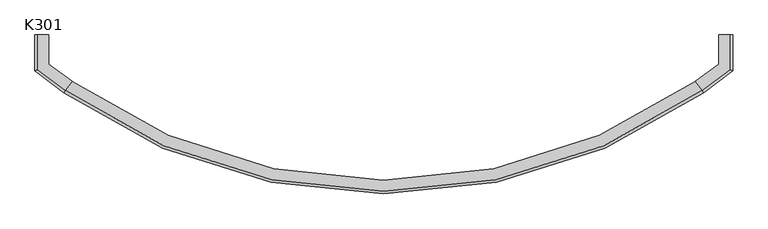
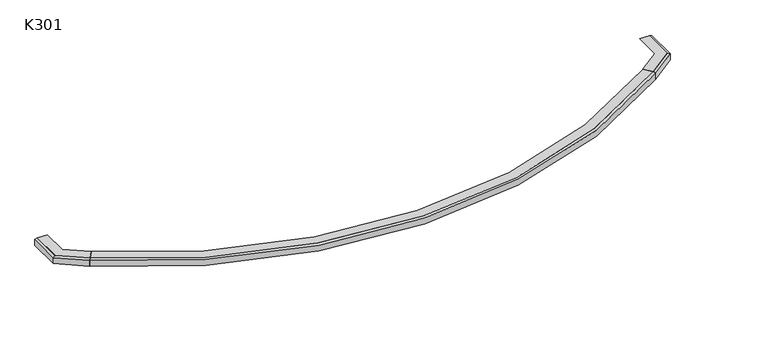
"""IFC4 building model written with IfcOpenShell, lengths in millimetres: proxy geometry, K301 Profil okapowy łukowy : K301."""

from ifc_helpers import new_model, si_unit, frame, origin, place, context, project, spatial, polyline, circle_curve, faceted_brep, source, transform, mapped, element, save
from ifc_brep_helpers import plane_surface, cylinder_surface, revolved_surface, advanced_brep


def k301_899016ea(model_context):
    return source(origin(), model_context, "Body", "SolidModel", [
        faceted_brep([(4812.0682799, -166.0790892, -6.0), (4800.0615487, -150.0841398, 0.0), (4752.034624, -86.1043422, 0.0), (4752.9252645, -87.2908225, -1.5004157), (4799.1610439, -148.8845186, -1.5004157), (4799.1610439, -148.8845186, -4.5), (4800.0615487, -150.0841398, -4.5), (4800.0615487, -150.0841398, -1.566046), (4811.1677751, -164.879468, -7.116046), (4811.1677751, -164.879468, -55.4735048), (4812.0682799, -166.0790892, -56.0), (5020.024571, 249.9979062, -6.0), (5020.024571, 249.9979062, -56.0), (5018.524571, 249.9980632, -55.4735048), (5018.524571, 249.9980632, -7.116046), (5000.0245711, 249.9999986, -1.566046), (5000.0245711, 249.9999986, -4.5), (4998.5245711, 250.0001556, -4.5), (4998.5245711, 250.0001556, -1.5004157), (4921.5081401, 250.008213, -1.5004157), (4920.0245716, 250.0083682, 0.0), (5000.0245711, 249.9999986, 0.0), (5019.9973706, -9.9955259, -56.0), (5019.9973706, -9.9955259, -6.0), (5018.497449, -9.2458614, -55.4735048), (5018.497449, -9.2458614, -7.116046), (4999.9984162, 0.0, -1.566046), (4999.9984162, 0.0, -4.5), (4998.4984946, 0.7496644, -4.5), (4998.4984946, 0.7496644, -1.5004157), (4921.4860897, 39.2406511, -1.5004157), (4920.0025987, 39.9821035, 0.0), (4999.9984162, 0.0, 0.0)], [[[0, 1, 2, 3, 4, 5, 6, 7, 8, 9, 10]], [[11, 12, 13, 14, 15, 16, 17, 18, 19, 20, 21]], [[10, 22, 23, 0]], [[9, 24, 22, 10]], [[8, 25, 24, 9]], [[7, 26, 25, 8]], [[6, 27, 26, 7]], [[5, 28, 17, 16, 27, 6]], [[4, 29, 28, 5]], [[3, 30, 19, 18, 29, 4]], [[2, 31, 30, 3]], [[1, 32, 21, 20, 31, 2]], [[0, 23, 32, 1]], [[22, 12, 11, 23]], [[24, 13, 12, 22]], [[25, 14, 13, 24]], [[26, 15, 14, 25]], [[27, 16, 15, 26]], [[29, 18, 17, 28]], [[31, 20, 19, 30]], [[23, 11, 21, 32]]]),
        faceted_brep([(187.9301977, -166.0791353, -6.0), (187.9301977, -166.0791353, -56.0), (188.8307025, -164.8795141, -55.4735048), (188.8307025, -164.8795141, -7.116046), (199.9369289, -150.0841859, -1.566046), (199.9369289, -150.0841859, -4.5), (200.8374337, -148.8845647, -4.5), (200.8374337, -148.8845647, -1.5004157), (247.0732132, -87.2908686, -1.5004157), (247.9638536, -86.1043883, 0.0), (199.9369289, -150.0841859, 0.0), (-20.0260934, 249.9978601, -6.0), (-0.0260935, 249.9999525, 0.0), (79.9739061, 250.0083221, 0.0), (78.4903375, 250.0081669, -1.5004157), (1.4739065, 250.0001095, -1.5004157), (1.4739065, 250.0001095, -4.5), (-0.0260935, 249.9999525, -4.5), (-0.0260935, 249.9999525, -1.566046), (-18.5260934, 249.9980171, -7.116046), (-18.5260934, 249.9980171, -55.4735048), (-20.0260934, 249.9978601, -56.0), (-19.998893, -9.995572, -6.0), (-19.998893, -9.995572, -56.0), (-18.4989714, -9.2459076, -55.4735048), (-18.4989714, -9.2459076, -7.116046), (6.14e-05, -4.61e-05, -1.566046), (6.14e-05, -4.61e-05, -4.5), (1.499983, 0.7496183, -4.5), (1.499983, 0.7496183, -1.5004157), (78.5123879, 39.240605, -1.5004157), (79.9958789, 39.9820574, 0.0), (6.14e-05, -4.61e-05, 0.0)], [[[0, 1, 2, 3, 4, 5, 6, 7, 8, 9, 10]], [[11, 12, 13, 14, 15, 16, 17, 18, 19, 20, 21]], [[1, 0, 22, 23]], [[2, 1, 23, 24]], [[3, 2, 24, 25]], [[4, 3, 25, 26]], [[5, 4, 26, 27]], [[6, 5, 27, 17, 16, 28]], [[7, 6, 28, 29]], [[8, 7, 29, 15, 14, 30]], [[9, 8, 30, 31]], [[10, 9, 31, 13, 12, 32]], [[0, 10, 32, 22]], [[23, 22, 11, 21]], [[24, 23, 21, 20]], [[25, 24, 20, 19]], [[26, 25, 19, 18]], [[27, 26, 18, 17]], [[29, 28, 16, 15]], [[31, 30, 14, 13]], [[22, 32, 12, 11]]]),
        advanced_brep(
        [(188.5440388, -166.508576, -6.0), (200.0438157, -150.1453511, 0.0), (246.0429236, -84.6924514, 0.0), (245.1898882, -85.9062497, -1.5004157), (200.906299, -148.9181092, -1.5004157), (200.906299, -148.9181092, -4.5), (200.0438157, -150.1453511, -4.5), (200.0438157, -150.1453511, -1.566046), (189.406522, -165.2813341, -7.116046), (189.406522, -165.2813341, -55.4735048), (188.5440388, -166.508576, -56.0), (4811.4543774, -166.508576, -6.0), (4811.4543774, -166.508576, -56.0), (4810.5918942, -165.2813341, -55.4735048), (4810.5918942, -165.2813341, -7.116046), (4799.9546005, -150.1453511, -1.566046), (4799.9546005, -150.1453511, -4.5), (4799.0921172, -148.9181092, -4.5), (4799.0921172, -148.9181092, -1.5004157), (4754.808528, -85.9062497, -1.5004157), (4753.9554926, -84.6924514, 0.0), (4799.9546005, -150.1453511, 0.0)],
        [
            (0, 1),
            (1, 2),
            (2, 3),
            (3, 4),
            (4, 5),
            (5, 6),
            (6, 7),
            (7, 8),
            (8, 9),
            (9, 10),
            (10, 0),
            (11, 12),
            (12, 13),
            (13, 14),
            (14, 15),
            (15, 16),
            (16, 17),
            (17, 18),
            (18, 19),
            (19, 20),
            (20, 21),
            (21, 11),
            (21, 1, circle_curve(frame((2499.9992081, 3122.4996332, 0.0), z_axis=(0.0, 0.0, -1.0), x_axis=(-0.5749888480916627, -0.818161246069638, 0.0)), 4000.0)),
            (0, 11, circle_curve(frame((2499.9992081, 3122.4996332, -6.0), z_axis=(0.0, 0.0, 1.0), x_axis=(-0.5749888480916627, -0.818161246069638, 0.0)), 4020.0)),
            (20, 2, circle_curve(frame((2499.9992081, 3122.4996332, 0.0), z_axis=(0.0, 0.0, -1.0), x_axis=(-0.5749888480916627, -0.818161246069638, 0.0)), 3920.0)),
            (19, 3, circle_curve(frame((2499.9992081, 3122.4996332, -1.5004157), z_axis=(0.0, 0.0, -1.0), x_axis=(-0.5749888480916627, -0.818161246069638, 0.0)), 3921.4835686)),
            (18, 4, circle_curve(frame((2499.9992081, 3122.4996332, -1.5004157), z_axis=(0.0, 0.0, -1.0), x_axis=(-0.5749888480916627, -0.818161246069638, 0.0)), 3998.5)),
            (17, 5, circle_curve(frame((2499.9992081, 3122.4996332, -4.5), z_axis=(0.0, 0.0, -1.0), x_axis=(-0.5749888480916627, -0.818161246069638, 0.0)), 3998.5)),
            (16, 6, circle_curve(frame((2499.9992081, 3122.4996332, -4.5), z_axis=(0.0, 0.0, -1.0), x_axis=(-0.5749888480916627, -0.818161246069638, 0.0)), 4000.0)),
            (15, 7, circle_curve(frame((2499.9992081, 3122.4996332, -1.566046), z_axis=(0.0, 0.0, -1.0), x_axis=(-0.5749888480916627, -0.818161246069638, 0.0)), 4000.0)),
            (14, 8, circle_curve(frame((2499.9992081, 3122.4996332, -7.116046), z_axis=(0.0, 0.0, -1.0), x_axis=(-0.5749888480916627, -0.818161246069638, 0.0)), 4018.5)),
            (13, 9, circle_curve(frame((2499.9992081, 3122.4996332, -55.4735048), z_axis=(0.0, 0.0, -1.0), x_axis=(-0.5749888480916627, -0.818161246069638, 0.0)), 4018.5)),
            (12, 10, circle_curve(frame((2499.9992081, 3122.4996332, -56.0), z_axis=(0.0, 0.0, -1.0), x_axis=(-0.5749888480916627, -0.818161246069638, 0.0)), 4020.0)),
        ],
        [
            plane_surface(frame((200.0438157, -150.1453511, 0.0), z_axis=(-0.818161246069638, 0.5749888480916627, 0.0), x_axis=(0.0, 0.0, 1.0))),
            plane_surface(frame((4799.9546005, -150.1453511, 0.0), z_axis=(0.8181612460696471, 0.5749888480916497, 0.0), x_axis=(0.0, 0.0, 1.0))),
            revolved_surface(polyline([(188.5440388, -166.508576, -6.0), (200.0438157, -150.1453511, 0.0)]), (2499.9992081, 3122.4996332, 0.0), (0.0, 0.0, 1.0)),
            plane_surface(frame((2499.9992081, 3122.4996332, 0.0), z_axis=(0.0, 0.0, 1.0), x_axis=(-0.5749888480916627, -0.818161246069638, 0.0))),
            revolved_surface(polyline([(246.0429236, -84.6924514, 0.0), (245.1898882, -85.9062497, -1.5004157)]), (2499.9992081, 3122.4996332, 0.0), (0.0, 0.0, 1.0)),
            plane_surface(frame((2499.9992081, 3122.4996332, -1.5004157), z_axis=(0.0, 0.0, -1.0), x_axis=(-0.5749888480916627, -0.818161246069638, 0.0))),
            revolved_surface(polyline([(200.90629900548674, -148.91810920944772, -1.5004157), (200.90629900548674, -148.91810920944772, -4.5)]), (2499.9992081, 3122.4996332, 0.0), (0.0, 0.0, 1.0)),
            plane_surface(frame((2499.9992081, 3122.4996332, -4.5), z_axis=(0.0, 0.0, -1.0), x_axis=(-0.5749888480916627, -0.818161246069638, 0.0))),
            cylinder_surface(frame((2499.9992081, 3122.4996332, 0.0), z_axis=(0.0, 0.0, 1.0), x_axis=(-0.5749888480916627, -0.818161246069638, 0.0)), 4000.0),
            revolved_surface(polyline([(200.0438157, -150.1453511, -1.566046), (189.406522, -165.2813341, -7.116046)]), (2499.9992081, 3122.4996332, 0.0), (0.0, 0.0, 1.0)),
            revolved_surface(polyline([(189.40652204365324, -165.28133413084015, -7.116046), (189.40652204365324, -165.28133413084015, -55.4735048)]), (2499.9992081, 3122.4996332, 0.0), (0.0, 0.0, 1.0)),
            revolved_surface(polyline([(189.406522, -165.2813341, -55.4735048), (188.5440388, -166.508576, -56.0)]), (2499.9992081, 3122.4996332, 0.0), (0.0, 0.0, 1.0)),
            cylinder_surface(frame((2499.9992081, 3122.4996332, 0.0), z_axis=(0.0, 0.0, 1.0), x_axis=(-0.5749888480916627, -0.818161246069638, 0.0)), 4020.0),
        ],
        [
            (0, [[1, 2, 3, 4, 5, 6, 7, 8, 9, 10, 11]]),
            (1, [[12, 13, 14, 15, 16, 17, 18, 19, 20, 21, 22]]),
            (2, [[23, -1, 24, -22]]),
            (3, [[25, -2, -23, -21]]),
            (4, [[26, -3, -25, -20]]),
            (5, [[27, -4, -26, -19]]),
            (6, [[28, -5, -27, -18]]),
            (7, [[29, -6, -28, -17]]),
            (8, [[30, -7, -29, -16]]),
            (9, [[31, -8, -30, -15]]),
            (10, [[32, -9, -31, -14]]),
            (11, [[33, -10, -32, -13]]),
            (12, [[-24, -11, -33, -12]]),
        ],
    ),
    ])


if __name__ == "__main__":
    model = new_model("IFC4")
    model_context = context("Model", 3, world=origin())
    ifc_project = project(units=[si_unit("LENGTHUNIT", "METRE", prefix="MILLI")], contexts=[model_context])
    site = spatial("IfcSite", under=ifc_project)
    building = spatial("IfcBuilding", under=site)
    placement = place(None, origin())
    k301_shape = k301_899016ea(model_context)
    element("IfcBuildingElementProxy", 1, Name="K301 Profil okapowy łukowy : K301", ObjectType="K301 Profil okapowy łukowy : K301", at=placement, inside=building, context=model_context, shape_type="MappedRepresentation", body=[
        mapped(k301_shape, transform((0.0, 0.0, 0.0), x_axis=(1.0, 0.0, 0.0), y_axis=(0.0, 1.0, 0.0), z_axis=(0.0, 0.0, 1.0))),
    ])
    save(model, "model.ifc")
